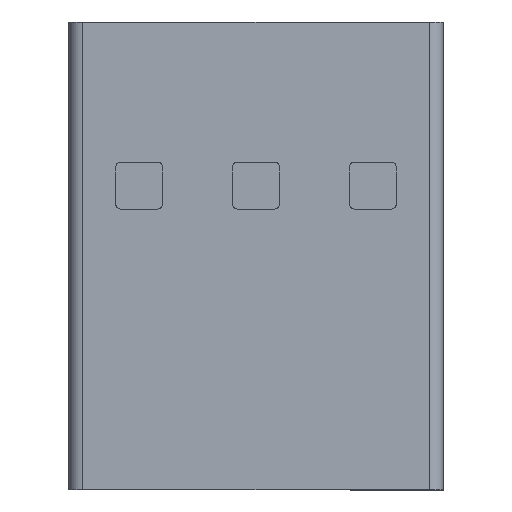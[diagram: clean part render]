
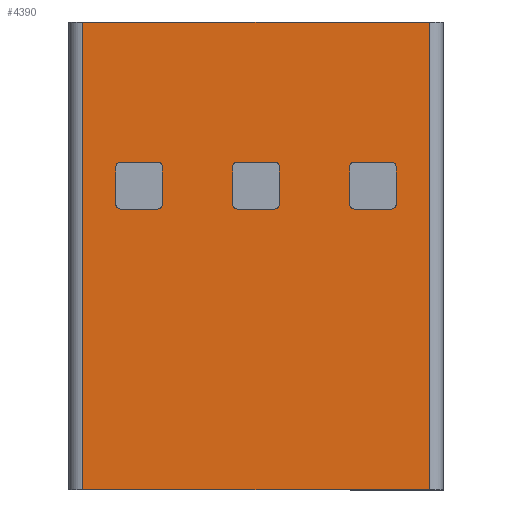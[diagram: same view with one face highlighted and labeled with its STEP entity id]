
A CAD part, top view. The second image highlights one B-rep face of the part: STEP entity #4390.
In plain terms, the highlighted planar face has unit normal (0, 0, 1) as drawn and (0, 1, 0) by its records, which use the part's own axes.
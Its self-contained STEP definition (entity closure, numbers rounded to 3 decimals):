
#100=CARTESIAN_POINT('',(-6.539,-12.222,4.45));
#110=VERTEX_POINT('',#100);
#160=CARTESIAN_POINT('',(-6.639,-12.222,4.45));
#170=DIRECTION('',(0.,-1.,0.));
#180=DIRECTION('',(1.,0.,0.));
#190=AXIS2_PLACEMENT_3D('',#160,#170,#180);
#200=CIRCLE('',#190,0.1);
#210=CARTESIAN_POINT('',(-6.639,-12.222,4.55));
#220=VERTEX_POINT('',#210);
#230=EDGE_CURVE('',#110,#220,#200,.T.);
#1320=CARTESIAN_POINT('',(-7.439,-12.222,3.55));
#1330=VERTEX_POINT('',#1320);
#1360=CARTESIAN_POINT('',(-7.439,-12.222,3.55));
#1370=DIRECTION('',(1.,0.,0.));
#1380=VECTOR('',#1370,1.);
#1390=LINE('',#1360,#1380);
#1400=CARTESIAN_POINT('',(-6.639,-12.222,3.55));
#1410=VERTEX_POINT('',#1400);
#1420=EDGE_CURVE('',#1330,#1410,#1390,.T.);
#1700=CARTESIAN_POINT('',(-7.539,-12.222,3.65));
#1710=VERTEX_POINT('',#1700);
#1740=CARTESIAN_POINT('',(-7.439,-12.222,3.65));
#1750=DIRECTION('',(0.,-1.,0.));
#1760=DIRECTION('',(-1.,0.,0.));
#1770=AXIS2_PLACEMENT_3D('',#1740,#1750,#1760);
#1780=CIRCLE('',#1770,0.1);
#1790=EDGE_CURVE('',#1710,#1330,#1780,.T.);
#2040=CARTESIAN_POINT('',(-7.539,-12.222,4.45));
#2050=VERTEX_POINT('',#2040);
#2080=CARTESIAN_POINT('',(-7.539,-12.222,4.45));
#2090=DIRECTION('',(0.,0.,-1.));
#2100=VECTOR('',#2090,1.);
#2110=LINE('',#2080,#2100);
#2120=EDGE_CURVE('',#2050,#1710,#2110,.T.);
#2240=CARTESIAN_POINT('',(-6.778,-12.222,1.972)
);
#2250=DIRECTION('',(0.,1.,-0.));
#2260=DIRECTION('',(-1.,0.,0.));
#2270=AXIS2_PLACEMENT_3D('',#2240,#2250,#2260);
#2280=PLANE('',#2270);
#2290=CARTESIAN_POINT('',(-3.539,-12.222,5.25));
#2300=DIRECTION('',(-1.,0.,0.));
#2310=VECTOR('',#2300,1.);
#2320=LINE('',#2290,#2310);
#2330=CARTESIAN_POINT('',(-3.539,-12.222,5.25));
#2340=VERTEX_POINT('',#2330);
#2350=CARTESIAN_POINT('',(-13.539,-12.222,5.25));
#2360=VERTEX_POINT('',#2350);
#2370=EDGE_CURVE('',#2340,#2360,#2320,.T.);
#2380=ORIENTED_EDGE('',*,*,#2370,.F.);
#2390=CARTESIAN_POINT('',(-13.539,-12.222,5.25));
#2400=DIRECTION('',(0.,0.,-1.));
#2410=VECTOR('',#2400,1.);
#2420=LINE('',#2390,#2410);
#2430=CARTESIAN_POINT('',(-13.539,-12.222,-2.15));
#2440=VERTEX_POINT('',#2430);
#2450=EDGE_CURVE('',#2360,#2440,#2420,.T.);
#2460=ORIENTED_EDGE('',*,*,#2450,.F.);
#2470=CARTESIAN_POINT('',(-13.539,-12.222,-2.15));
#2480=DIRECTION('',(1.,0.,0.));
#2490=VECTOR('',#2480,1.);
#2500=LINE('',#2470,#2490);
#2510=CARTESIAN_POINT('',(-3.539,-12.222,-2.15));
#2520=VERTEX_POINT('',#2510);
#2530=EDGE_CURVE('',#2440,#2520,#2500,.T.);
#2540=ORIENTED_EDGE('',*,*,#2530,.F.);
#2550=CARTESIAN_POINT('',(-3.539,-12.222,-2.15));
#2560=DIRECTION('',(0.,0.,1.));
#2570=VECTOR('',#2560,1.);
#2580=LINE('',#2550,#2570);
#2590=EDGE_CURVE('',#2520,#2340,#2580,.T.);
#2600=ORIENTED_EDGE('',*,*,#2590,.F.);
#2610=EDGE_LOOP('',(#2600,#2540,#2460,#2380));
#2620=FACE_OUTER_BOUND('',#2610,.T.);
#2630=CARTESIAN_POINT('',(-6.639,-12.222,3.65));
#2640=DIRECTION('',(0.,-1.,0.));
#2650=DIRECTION('',(0.,0.,-1.));
#2660=AXIS2_PLACEMENT_3D('',#2630,#2640,#2650);
#2670=CIRCLE('',#2660,0.1);
#2680=CARTESIAN_POINT('',(-6.539,-12.222,3.65));
#2690=VERTEX_POINT('',#2680);
#2700=EDGE_CURVE('',#1410,#2690,#2670,.T.);
#2710=ORIENTED_EDGE('',*,*,#2700,.T.);
#2720=ORIENTED_EDGE('',*,*,#1420,.T.);
#2730=ORIENTED_EDGE('',*,*,#1790,.T.);
#2740=ORIENTED_EDGE('',*,*,#2120,.T.);
#2750=CARTESIAN_POINT('',(-7.439,-12.222,4.45));
#2760=DIRECTION('',(0.,-1.,0.));
#2770=DIRECTION('',(0.,0.,1.));
#2780=AXIS2_PLACEMENT_3D('',#2750,#2760,#2770);
#2790=CIRCLE('',#2780,0.1);
#2800=CARTESIAN_POINT('',(-7.439,-12.222,4.55));
#2810=VERTEX_POINT('',#2800);
#2820=EDGE_CURVE('',#2810,#2050,#2790,.T.);
#2830=ORIENTED_EDGE('',*,*,#2820,.T.);
#2840=CARTESIAN_POINT('',(-6.639,-12.222,4.55));
#2850=DIRECTION('',(-1.,0.,0.));
#2860=VECTOR('',#2850,1.);
#2870=LINE('',#2840,#2860);
#2880=EDGE_CURVE('',#220,#2810,#2870,.T.);
#2890=ORIENTED_EDGE('',*,*,#2880,.T.);
#2900=ORIENTED_EDGE('',*,*,#230,.T.);
#2910=CARTESIAN_POINT('',(-6.539,-12.222,3.65));
#2920=DIRECTION('',(0.,0.,1.));
#2930=VECTOR('',#2920,1.);
#2940=LINE('',#2910,#2930);
#2950=EDGE_CURVE('',#2690,#110,#2940,.T.);
#2960=ORIENTED_EDGE('',*,*,#2950,.T.);
#2970=EDGE_LOOP('',(#2960,#2900,#2890,#2830,#2740,#2730,#2720,#2710));
#2980=FACE_BOUND('',#2970,.T.);
#2990=CARTESIAN_POINT('',(-6.639,-12.222,1.15));
#3000=DIRECTION('',(0.,-1.,0.));
#3010=DIRECTION('',(0.,0.,-1.));
#3020=AXIS2_PLACEMENT_3D('',#2990,#3000,#3010);
#3030=CIRCLE('',#3020,0.1);
#3040=CARTESIAN_POINT('',(-6.639,-12.222,1.05));
#3050=VERTEX_POINT('',#3040);
#3060=CARTESIAN_POINT('',(-6.539,-12.222,1.15));
#3070=VERTEX_POINT('',#3060);
#3080=EDGE_CURVE('',#3050,#3070,#3030,.T.);
#3090=ORIENTED_EDGE('',*,*,#3080,.T.);
#3100=CARTESIAN_POINT('',(-7.439,-12.222,1.05));
#3110=DIRECTION('',(1.,0.,0.));
#3120=VECTOR('',#3110,1.);
#3130=LINE('',#3100,#3120);
#3140=CARTESIAN_POINT('',(-7.439,-12.222,1.05));
#3150=VERTEX_POINT('',#3140);
#3160=EDGE_CURVE('',#3150,#3050,#3130,.T.);
#3170=ORIENTED_EDGE('',*,*,#3160,.T.);
#3180=CARTESIAN_POINT('',(-7.439,-12.222,1.15));
#3190=DIRECTION('',(0.,-1.,0.));
#3200=DIRECTION('',(-1.,0.,0.));
#3210=AXIS2_PLACEMENT_3D('',#3180,#3190,#3200);
#3220=CIRCLE('',#3210,0.1);
#3230=CARTESIAN_POINT('',(-7.539,-12.222,1.15));
#3240=VERTEX_POINT('',#3230);
#3250=EDGE_CURVE('',#3240,#3150,#3220,.T.);
#3260=ORIENTED_EDGE('',*,*,#3250,.T.);
#3270=CARTESIAN_POINT('',(-7.539,-12.222,1.95));
#3280=DIRECTION('',(0.,0.,-1.));
#3290=VECTOR('',#3280,1.);
#3300=LINE('',#3270,#3290);
#3310=CARTESIAN_POINT('',(-7.539,-12.222,1.95));
#3320=VERTEX_POINT('',#3310);
#3330=EDGE_CURVE('',#3320,#3240,#3300,.T.);
#3340=ORIENTED_EDGE('',*,*,#3330,.T.);
#3350=CARTESIAN_POINT('',(-7.439,-12.222,1.95));
#3360=DIRECTION('',(0.,-1.,0.));
#3370=DIRECTION('',(0.,0.,1.));
#3380=AXIS2_PLACEMENT_3D('',#3350,#3360,#3370);
#3390=CIRCLE('',#3380,0.1);
#3400=CARTESIAN_POINT('',(-7.439,-12.222,2.05));
#3410=VERTEX_POINT('',#3400);
#3420=EDGE_CURVE('',#3410,#3320,#3390,.T.);
#3430=ORIENTED_EDGE('',*,*,#3420,.T.);
#3440=CARTESIAN_POINT('',(-6.639,-12.222,2.05));
#3450=DIRECTION('',(-1.,0.,0.));
#3460=VECTOR('',#3450,1.);
#3470=LINE('',#3440,#3460);
#3480=CARTESIAN_POINT('',(-6.639,-12.222,2.05));
#3490=VERTEX_POINT('',#3480);
#3500=EDGE_CURVE('',#3490,#3410,#3470,.T.);
#3510=ORIENTED_EDGE('',*,*,#3500,.T.);
#3520=CARTESIAN_POINT('',(-6.639,-12.222,1.95));
#3530=DIRECTION('',(0.,-1.,0.));
#3540=DIRECTION('',(1.,0.,0.));
#3550=AXIS2_PLACEMENT_3D('',#3520,#3530,#3540);
#3560=CIRCLE('',#3550,0.1);
#3570=CARTESIAN_POINT('',(-6.539,-12.222,1.95));
#3580=VERTEX_POINT('',#3570);
#3590=EDGE_CURVE('',#3580,#3490,#3560,.T.);
#3600=ORIENTED_EDGE('',*,*,#3590,.T.);
#3610=CARTESIAN_POINT('',(-6.539,-12.222,1.15));
#3620=DIRECTION('',(0.,0.,1.));
#3630=VECTOR('',#3620,1.);
#3640=LINE('',#3610,#3630);
#3650=EDGE_CURVE('',#3070,#3580,#3640,.T.);
#3660=ORIENTED_EDGE('',*,*,#3650,.T.);
#3670=EDGE_LOOP('',(#3660,#3600,#3510,#3430,#3340,#3260,#3170,#3090));
#3680=FACE_BOUND('',#3670,.T.);
#3690=CARTESIAN_POINT('',(-6.639,-12.222,-1.35));
#3700=DIRECTION('',(0.,-1.,0.));
#3710=DIRECTION('',(0.,0.,-1.));
#3720=AXIS2_PLACEMENT_3D('',#3690,#3700,#3710);
#3730=CIRCLE('',#3720,0.1);
#3740=CARTESIAN_POINT('',(-6.639,-12.222,-1.45));
#3750=VERTEX_POINT('',#3740);
#3760=CARTESIAN_POINT('',(-6.539,-12.222,-1.35));
#3770=VERTEX_POINT('',#3760);
#3780=EDGE_CURVE('',#3750,#3770,#3730,.T.);
#3790=ORIENTED_EDGE('',*,*,#3780,.T.);
#3800=CARTESIAN_POINT('',(-7.439,-12.222,-1.45));
#3810=DIRECTION('',(1.,0.,0.));
#3820=VECTOR('',#3810,1.);
#3830=LINE('',#3800,#3820);
#3840=CARTESIAN_POINT('',(-7.439,-12.222,-1.45));
#3850=VERTEX_POINT('',#3840);
#3860=EDGE_CURVE('',#3850,#3750,#3830,.T.);
#3870=ORIENTED_EDGE('',*,*,#3860,.T.);
#3880=CARTESIAN_POINT('',(-7.439,-12.222,-1.35));
#3890=DIRECTION('',(0.,-1.,0.));
#3900=DIRECTION('',(-1.,0.,0.));
#3910=AXIS2_PLACEMENT_3D('',#3880,#3890,#3900);
#3920=CIRCLE('',#3910,0.1);
#3930=CARTESIAN_POINT('',(-7.539,-12.222,-1.35));
#3940=VERTEX_POINT('',#3930);
#3950=EDGE_CURVE('',#3940,#3850,#3920,.T.);
#3960=ORIENTED_EDGE('',*,*,#3950,.T.);
#3970=CARTESIAN_POINT('',(-7.539,-12.222,-0.55));
#3980=DIRECTION('',(0.,0.,-1.));
#3990=VECTOR('',#3980,1.);
#4000=LINE('',#3970,#3990);
#4010=CARTESIAN_POINT('',(-7.539,-12.222,-0.55));
#4020=VERTEX_POINT('',#4010);
#4030=EDGE_CURVE('',#4020,#3940,#4000,.T.);
#4040=ORIENTED_EDGE('',*,*,#4030,.T.);
#4050=CARTESIAN_POINT('',(-7.439,-12.222,-0.55));
#4060=DIRECTION('',(0.,-1.,0.));
#4070=DIRECTION('',(0.,0.,1.));
#4080=AXIS2_PLACEMENT_3D('',#4050,#4060,#4070);
#4090=CIRCLE('',#4080,0.1);
#4100=CARTESIAN_POINT('',(-7.439,-12.222,-0.45));
#4110=VERTEX_POINT('',#4100);
#4120=EDGE_CURVE('',#4110,#4020,#4090,.T.);
#4130=ORIENTED_EDGE('',*,*,#4120,.T.);
#4140=CARTESIAN_POINT('',(-6.639,-12.222,-0.45));
#4150=DIRECTION('',(-1.,0.,0.));
#4160=VECTOR('',#4150,1.);
#4170=LINE('',#4140,#4160);
#4180=CARTESIAN_POINT('',(-6.639,-12.222,-0.45));
#4190=VERTEX_POINT('',#4180);
#4200=EDGE_CURVE('',#4190,#4110,#4170,.T.);
#4210=ORIENTED_EDGE('',*,*,#4200,.T.);
#4220=CARTESIAN_POINT('',(-6.639,-12.222,-0.55));
#4230=DIRECTION('',(0.,-1.,0.));
#4240=DIRECTION('',(1.,0.,0.));
#4250=AXIS2_PLACEMENT_3D('',#4220,#4230,#4240);
#4260=CIRCLE('',#4250,0.1);
#4270=CARTESIAN_POINT('',(-6.539,-12.222,-0.55));
#4280=VERTEX_POINT('',#4270);
#4290=EDGE_CURVE('',#4280,#4190,#4260,.T.);
#4300=ORIENTED_EDGE('',*,*,#4290,.T.);
#4310=CARTESIAN_POINT('',(-6.539,-12.222,-1.35));
#4320=DIRECTION('',(0.,0.,1.));
#4330=VECTOR('',#4320,1.);
#4340=LINE('',#4310,#4330);
#4350=EDGE_CURVE('',#3770,#4280,#4340,.T.);
#4360=ORIENTED_EDGE('',*,*,#4350,.T.);
#4370=EDGE_LOOP('',(#4360,#4300,#4210,#4130,#4040,#3960,#3870,#3790));
#4380=FACE_BOUND('',#4370,.T.);
#4390=ADVANCED_FACE('',(#2620,#2980,#3680,#4380),#2280,.T.);
